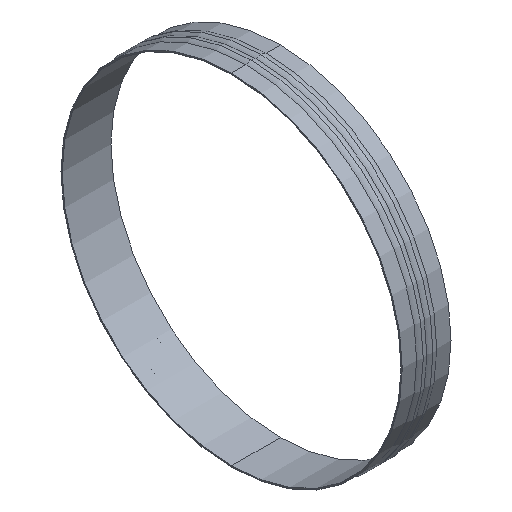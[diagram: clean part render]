
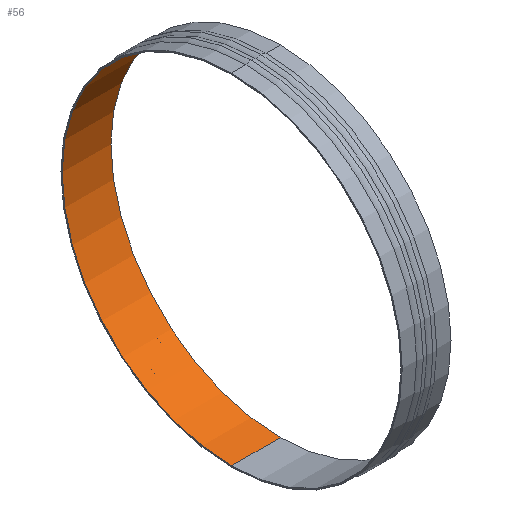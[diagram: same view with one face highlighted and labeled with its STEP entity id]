
A CAD part, isometric view. The second image highlights one B-rep face of the part: STEP entity #56.
In plain terms, the highlighted cylindrical face has radius 556 mm (diameter 1112 mm), a partial arc.
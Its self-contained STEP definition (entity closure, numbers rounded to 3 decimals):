
#56=ADVANCED_FACE('',(#113),#114,.F.);
#113=FACE_OUTER_BOUND('',#170,.T.);
#114=CYLINDRICAL_SURFACE('',#171,556.0);
#170=EDGE_LOOP('',(#261,#262,#263,#264));
#171=AXIS2_PLACEMENT_3D('',#265,#266,#267);
#261=ORIENTED_EDGE('',*,*,#356,.F.);
#262=ORIENTED_EDGE('',*,*,#357,.F.);
#263=ORIENTED_EDGE('',*,*,#358,.F.);
#264=ORIENTED_EDGE('',*,*,#359,.F.);
#265=CARTESIAN_POINT('',(0.0,0.0,0.0));
#266=DIRECTION('',(1.0,0.0,0.0));
#267=DIRECTION('',(0.0,0.0,-1.0));
#356=EDGE_CURVE('',#418,#419,#420,.T.);
#357=EDGE_CURVE('',#421,#418,#422,.T.);
#358=EDGE_CURVE('',#423,#421,#424,.T.);
#359=EDGE_CURVE('',#419,#423,#425,.T.);
#418=VERTEX_POINT('',#488);
#419=VERTEX_POINT('',#489);
#420=LINE('',#490,#491);
#421=VERTEX_POINT('',#492);
#422=CIRCLE('',#493,556.0);
#423=VERTEX_POINT('',#494);
#424=LINE('',#495,#496);
#425=CIRCLE('',#497,556.0);
#488=CARTESIAN_POINT('',(80.0,0.,-556.0));
#489=CARTESIAN_POINT('',(-80.0,0.,-556.0));
#490=CARTESIAN_POINT('',(0.0,0.,-556.0));
#491=VECTOR('',#571,1.0);
#492=CARTESIAN_POINT('',(80.0,0.,556.0));
#493=AXIS2_PLACEMENT_3D('',#572,#573,#574);
#494=CARTESIAN_POINT('',(-80.0,0.,556.0));
#495=CARTESIAN_POINT('',(0.0,0.,556.0));
#496=VECTOR('',#575,1.0);
#497=AXIS2_PLACEMENT_3D('',#576,#577,#578);
#571=DIRECTION('',(-1.0,0.0,0.0));
#572=CARTESIAN_POINT('',(80.0,0.0,0.0));
#573=DIRECTION('',(-1.0,-0.0,-0.0));
#574=DIRECTION('',(0.0,0.0,-1.0));
#575=DIRECTION('',(1.0,0.0,0.0));
#576=CARTESIAN_POINT('',(-80.0,0.0,0.0));
#577=DIRECTION('',(1.0,0.0,0.0));
#578=DIRECTION('',(0.0,0.0,-1.0));
